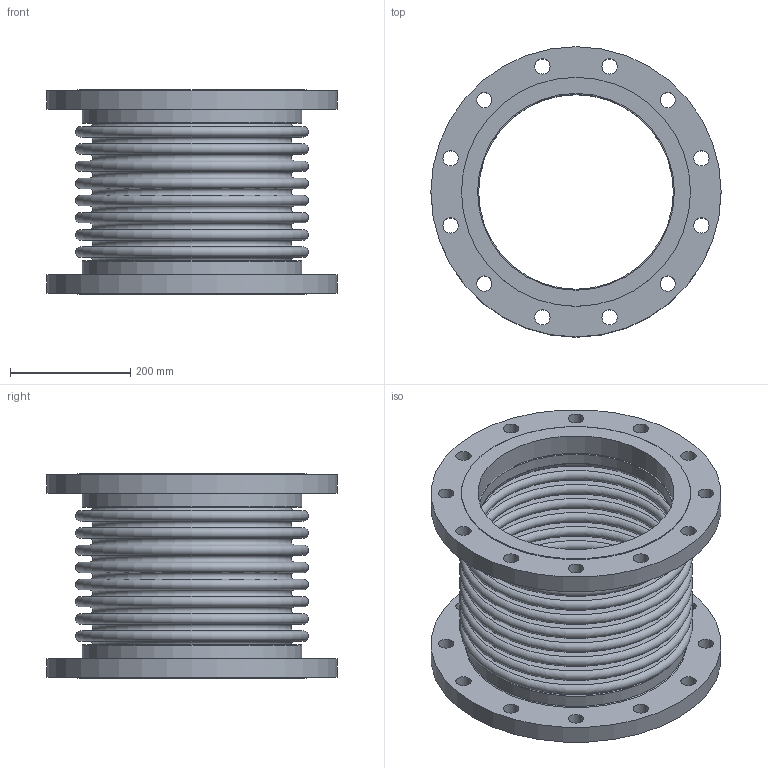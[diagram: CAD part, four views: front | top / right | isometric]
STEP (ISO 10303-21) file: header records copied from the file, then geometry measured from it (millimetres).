
FILE_DESCRIPTION(/* description */ ('EXPANSION JOINT,SINGLE, FLANGED ENDS,12 INCH NOMINAL','CAx-IF Rec.Pracs.---Representation and Presentation of Product Manufacturing Information (PMI)---4.0---2014-10-13'),/* implementation_level */ '2;1');
FILE_NAME(/* name */ 'US-12-8-300S-FLANGED ENDS.stp',/* time_stamp */ '2026-07-31T17:20:28-05:00',/* author */ ('Guadalupe'),/* organization */ (''),/* preprocessor_version */ 'ST-DEVELOPER v20.1',/* originating_system */ 'Autodesk Inventor 2026',/* authorisation */ '');
FILE_SCHEMA (('AP242_MANAGED_MODEL_BASED_3D_ENGINEERING_MIM_LF { 1 0 10303 442 2 1 4 }'));
Length unit declared in the file: inch
Products named in the file (3): 12-300S; 12-300S-02; 12-300S-01
Assembly tree (3 placements, depth 2):
  12-300S
    12-300S-02  x2
    12-300S-01
Bounding box: 482.6 x 482.6 x 339.34 mm (x, y, z)
Volume: 8806235.2 mm3; surface area: 2103981.2 mm2
Topology: 5 solids, 5 shells, 120 faces, 222 edges, 148 vertices
Faces by surface type: plane 46, torus 38, cylinder 36
Full cylindrical faces by diameter (mm): 25.4 x24, 323.85 x2, 327.152 x2, 329.946 x2, 365.252 x2, 381 x2, 482.6 x2
Entity records: 2714 total; most frequent: DIRECTION 550, CARTESIAN_POINT 401, ORIENTED_EDGE 336, AXIS2_PLACEMENT_3D 265, EDGE_CURVE 168, EDGE_LOOP 164, CIRCLE 148, VERTEX_POINT 112
